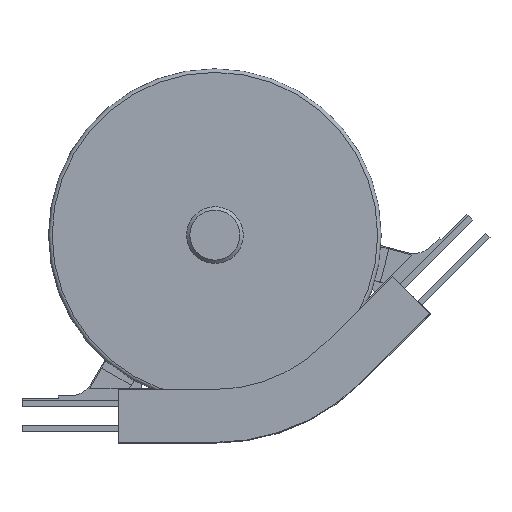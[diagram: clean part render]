
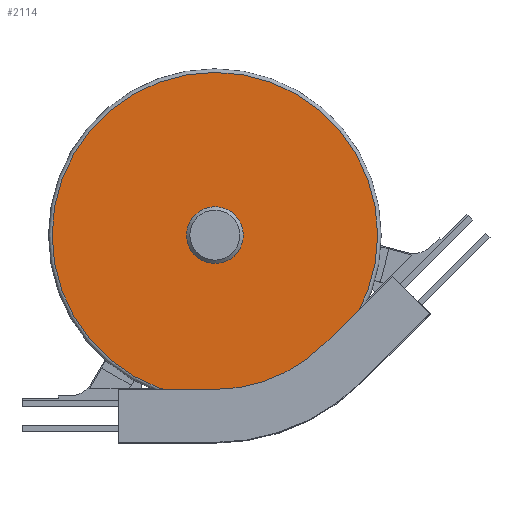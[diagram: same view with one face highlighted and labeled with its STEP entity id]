
A CAD part, top view. The second image highlights one B-rep face of the part: STEP entity #2114.
In plain terms, the highlighted planar face has unit normal (0, 0, 1).
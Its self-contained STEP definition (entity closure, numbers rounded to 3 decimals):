
#41=FACE_BOUND('',#345,.T.);
#81=CIRCLE('',#2283,135.);
#83=CIRCLE('',#2286,21.);
#213=FACE_OUTER_BOUND('',#344,.T.);
#344=EDGE_LOOP('',(#1806));
#345=EDGE_LOOP('',(#1807));
#1023=VERTEX_POINT('',#3376);
#1024=VERTEX_POINT('',#3380);
#1290=EDGE_CURVE('',#1023,#1023,#81,.T.);
#1292=EDGE_CURVE('',#1024,#1024,#83,.T.);
#1806=ORIENTED_EDGE('',*,*,#1290,.T.);
#1807=ORIENTED_EDGE('',*,*,#1292,.F.);
#2000=PLANE('',#2285);
#2114=ADVANCED_FACE('',(#213,#41),#2000,.T.);
#2283=AXIS2_PLACEMENT_3D('',#3377,#2769,#2770);
#2285=AXIS2_PLACEMENT_3D('',#3379,#2773,#2774);
#2286=AXIS2_PLACEMENT_3D('',#3381,#2775,#2776);
#2769=DIRECTION('center_axis',(0.,0.,1.));
#2770=DIRECTION('ref_axis',(1.,0.,0.));
#2773=DIRECTION('center_axis',(0.,0.,1.));
#2774=DIRECTION('ref_axis',(1.,0.,0.));
#2775=DIRECTION('center_axis',(0.,0.,1.));
#2776=DIRECTION('ref_axis',(1.,0.,0.));
#3376=CARTESIAN_POINT('',(-55.,150.,33.5));
#3377=CARTESIAN_POINT('Origin',(80.,150.,33.5));
#3379=CARTESIAN_POINT('Origin',(71.964,169.401,33.5));
#3380=CARTESIAN_POINT('',(88.036,130.599,33.5));
#3381=CARTESIAN_POINT('Origin',(80.,150.,33.5));
